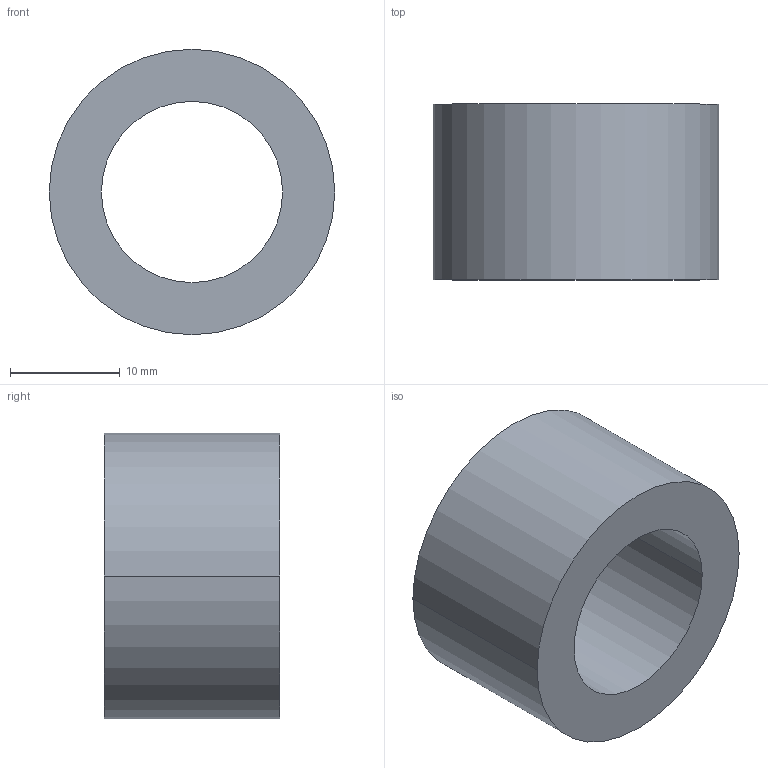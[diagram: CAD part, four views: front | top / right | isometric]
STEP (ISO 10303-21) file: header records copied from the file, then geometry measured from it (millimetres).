
FILE_DESCRIPTION (( 'STEP AP203' ), '1' );
FILE_NAME ('30800.WPP26F16.5.step', '2019-01-23T22:45:35', ( '' ), ( '' ), 'SwSTEP 2.0', 'SolidWorks 2017', '' );
FILE_SCHEMA (( 'CONFIG_CONTROL_DESIGN' ));
Length unit declared in the file: millimetre
Products named in the file (1): 30800.WPP26F16.5
Bounding box: 26 x 16 x 26 mm (x, y, z)
Volume: 5026.8 mm3; surface area: 2727.8 mm2
Topology: 1 solids, 1 shells, 8 faces, 16 edges, 10 vertices
Faces by surface type: cylinder 4, torus 2, plane 2
Entity records: 297 total; most frequent: DIRECTION 46, CARTESIAN_POINT 35, ORIENTED_EDGE 32, AXIS2_PLACEMENT_3D 21, EDGE_CURVE 16, CIRCLE 12, EDGE_LOOP 10, VERTEX_POINT 10
